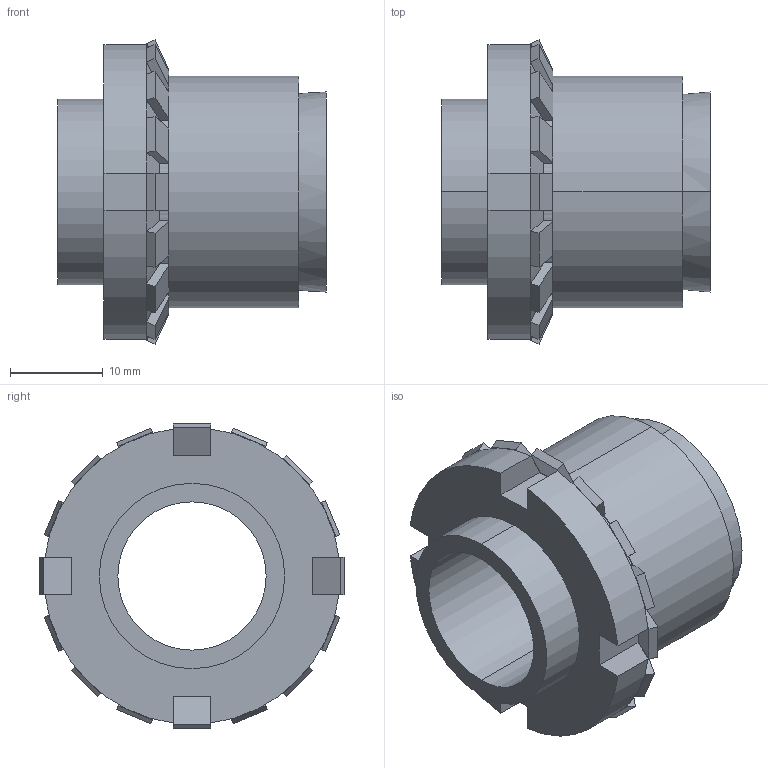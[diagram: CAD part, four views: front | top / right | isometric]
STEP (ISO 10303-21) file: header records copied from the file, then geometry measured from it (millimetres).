
FILE_DESCRIPTION (( 'STEP AP203' ), '1' );
FILE_NAME ('SI-16.STEP', '2009-09-29T17:26:08', ( 'USER' ), ( 'HOME' ), 'SwSTEP 2.0', 'SolidWorks 2007', '' );
FILE_SCHEMA (( 'CONFIG_CONTROL_DESIGN' ));
Length unit declared in the file: millimetre
Products named in the file (1): SI-16
Bounding box: 29 x 32.85 x 32.85 mm (x, y, z)
Volume: 12083.4 mm3; surface area: 17626.3 mm2
Topology: 19 solids, 19 shells, 232 faces, 574 edges, 380 vertices
Faces by surface type: plane 130, cylinder 94, cone 8
Entity records: 7043 total; most frequent: CARTESIAN_POINT 1235, DIRECTION 1220, ORIENTED_EDGE 1148, EDGE_CURVE 574, AXIS2_PLACEMENT_3D 429, VERTEX_POINT 380, VECTOR 362, LINE 362
